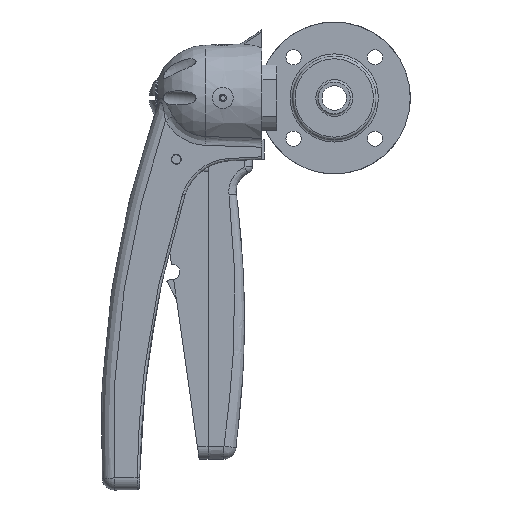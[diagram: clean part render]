
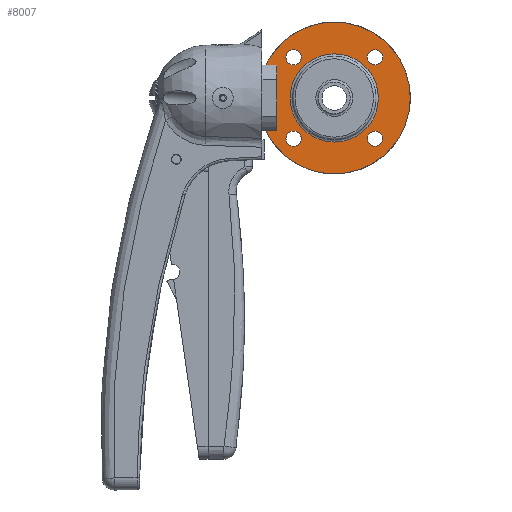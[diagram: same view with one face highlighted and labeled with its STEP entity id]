
A CAD part, left-side view. The second image highlights one B-rep face of the part: STEP entity #8007.
In plain terms, the highlighted planar face has unit normal (-1, 0, 0) as drawn and (1, 0, 0) by its records, which use the part's own axes.
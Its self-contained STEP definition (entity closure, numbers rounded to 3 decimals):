
#1997=FACE_BOUND('',#2883,.T.);
#1998=FACE_BOUND('',#2884,.T.);
#1999=FACE_BOUND('',#2885,.T.);
#2000=FACE_BOUND('',#2886,.T.);
#2001=FACE_BOUND('',#2887,.T.);
#2422=FACE_OUTER_BOUND('',#2882,.T.);
#2882=EDGE_LOOP('',(#7305,#7306));
#2883=EDGE_LOOP('',(#7307));
#2884=EDGE_LOOP('',(#7308));
#2885=EDGE_LOOP('',(#7309));
#2886=EDGE_LOOP('',(#7310));
#2887=EDGE_LOOP('',(#7311,#7312));
#3169=CIRCLE('',#8730,3.1);
#3172=CIRCLE('',#8734,3.1);
#3175=CIRCLE('',#8738,3.1);
#3178=CIRCLE('',#8742,3.1);
#3185=CIRCLE('',#8755,31.);
#3186=CIRCLE('',#8756,31.);
#3188=CIRCLE('',#8759,18.);
#3189=CIRCLE('',#8760,18.);
#3905=VERTEX_POINT('',#22674);
#3908=VERTEX_POINT('',#22682);
#3911=VERTEX_POINT('',#22690);
#3914=VERTEX_POINT('',#22698);
#3930=VERTEX_POINT('',#22812);
#3931=VERTEX_POINT('',#22813);
#3932=VERTEX_POINT('',#22819);
#3933=VERTEX_POINT('',#22820);
#5033=EDGE_CURVE('',#3905,#3905,#3169,.T.);
#5037=EDGE_CURVE('',#3908,#3908,#3172,.T.);
#5041=EDGE_CURVE('',#3911,#3911,#3175,.T.);
#5045=EDGE_CURVE('',#3914,#3914,#3178,.T.);
#5065=EDGE_CURVE('',#3930,#3931,#3185,.T.);
#5066=EDGE_CURVE('',#3931,#3930,#3186,.T.);
#5069=EDGE_CURVE('',#3932,#3933,#3188,.T.);
#5070=EDGE_CURVE('',#3933,#3932,#3189,.T.);
#7305=ORIENTED_EDGE('',*,*,#5065,.T.);
#7306=ORIENTED_EDGE('',*,*,#5066,.T.);
#7307=ORIENTED_EDGE('',*,*,#5033,.T.);
#7308=ORIENTED_EDGE('',*,*,#5037,.T.);
#7309=ORIENTED_EDGE('',*,*,#5041,.T.);
#7310=ORIENTED_EDGE('',*,*,#5045,.T.);
#7311=ORIENTED_EDGE('',*,*,#5069,.F.);
#7312=ORIENTED_EDGE('',*,*,#5070,.F.);
#7587=PLANE('',#8758);
#8007=ADVANCED_FACE('',(#2422,#1997,#1998,#1999,#2000,#2001),#7587,.T.);
#8730=AXIS2_PLACEMENT_3D('',#22676,#10584,#10585);
#8734=AXIS2_PLACEMENT_3D('',#22684,#10593,#10594);
#8738=AXIS2_PLACEMENT_3D('',#22692,#10602,#10603);
#8742=AXIS2_PLACEMENT_3D('',#22700,#10611,#10612);
#8755=AXIS2_PLACEMENT_3D('',#22814,#10643,#10644);
#8756=AXIS2_PLACEMENT_3D('',#22815,#10645,#10646);
#8758=AXIS2_PLACEMENT_3D('',#22818,#10650,#10651);
#8759=AXIS2_PLACEMENT_3D('',#22821,#10652,#10653);
#8760=AXIS2_PLACEMENT_3D('',#22822,#10654,#10655);
#10584=DIRECTION('center_axis',(-1.,0.,0.));
#10585=DIRECTION('ref_axis',(0.,1.,0.));
#10593=DIRECTION('center_axis',(-1.,0.,0.));
#10594=DIRECTION('ref_axis',(0.,0.,-1.));
#10602=DIRECTION('center_axis',(-1.,0.,0.));
#10603=DIRECTION('ref_axis',(0.,-1.,0.));
#10611=DIRECTION('center_axis',(-1.,0.,0.));
#10612=DIRECTION('ref_axis',(0.,0.,1.));
#10643=DIRECTION('center_axis',(1.,0.,0.));
#10644=DIRECTION('ref_axis',(0.,0.,-1.));
#10645=DIRECTION('center_axis',(1.,0.,0.));
#10646=DIRECTION('ref_axis',(0.,0.,-1.));
#10650=DIRECTION('center_axis',(1.,0.,0.));
#10651=DIRECTION('ref_axis',(0.,0.,-1.));
#10652=DIRECTION('center_axis',(1.,0.,0.));
#10653=DIRECTION('ref_axis',(0.,0.,-1.));
#10654=DIRECTION('center_axis',(1.,0.,0.));
#10655=DIRECTION('ref_axis',(0.,0.,-1.));
#22674=CARTESIAN_POINT('',(10.,13.517,-16.617));
#22676=CARTESIAN_POINT('Origin',(10.,16.617,-16.617));
#22682=CARTESIAN_POINT('',(10.,-16.617,-13.517));
#22684=CARTESIAN_POINT('Origin',(10.,-16.617,-16.617));
#22690=CARTESIAN_POINT('',(10.,-13.517,16.617));
#22692=CARTESIAN_POINT('Origin',(10.,-16.617,16.617));
#22698=CARTESIAN_POINT('',(10.,16.617,13.517));
#22700=CARTESIAN_POINT('Origin',(10.,16.617,16.617));
#22812=CARTESIAN_POINT('',(10.,31.,0.));
#22813=CARTESIAN_POINT('',(10.,-31.,0.));
#22814=CARTESIAN_POINT('Origin',(10.,0.,0.));
#22815=CARTESIAN_POINT('Origin',(10.,0.,0.));
#22818=CARTESIAN_POINT('Origin',(10.,18.,0.));
#22819=CARTESIAN_POINT('',(10.,18.,0.));
#22820=CARTESIAN_POINT('',(10.,0.,18.));
#22821=CARTESIAN_POINT('Origin',(10.,0.,0.));
#22822=CARTESIAN_POINT('Origin',(10.,0.,0.));
